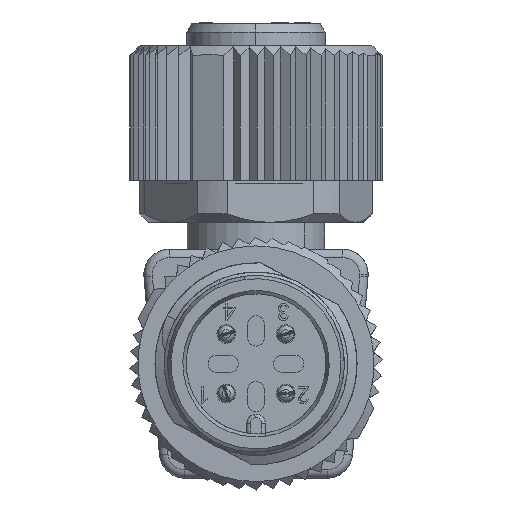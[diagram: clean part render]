
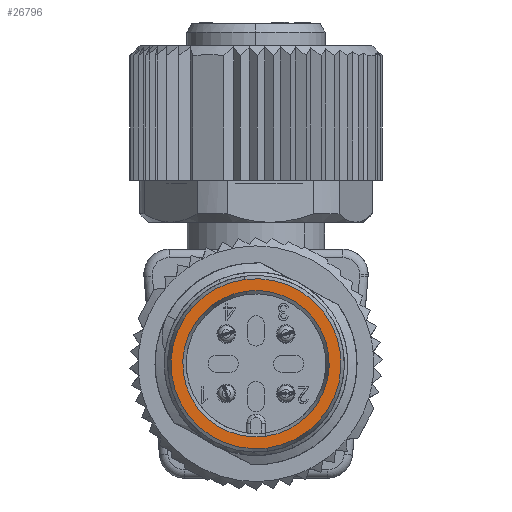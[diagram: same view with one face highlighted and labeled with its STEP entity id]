
A CAD part, left-side view. The second image highlights one B-rep face of the part: STEP entity #26796.
In plain terms, the highlighted planar face has unit normal (-1, 0, 0).
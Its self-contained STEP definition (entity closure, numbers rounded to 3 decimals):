
#1287 = CIRCLE ( 'NONE', #51316, 5.05 ) ;
#7569 = AXIS2_PLACEMENT_3D ( 'NONE', #46265, #33351, #70119 ) ;
#9285 = FACE_OUTER_BOUND ( 'NONE', #50272, .T. ) ;
#9570 = VERTEX_POINT ( 'NONE', #70511 ) ;
#11914 = ORIENTED_EDGE ( 'NONE', *, *, #16942, .F. ) ;
#12430 = CARTESIAN_POINT ( 'NONE',  ( -194.672, 0., -0.256 ) ) ;
#14388 = ORIENTED_EDGE ( 'NONE', *, *, #45890, .T. ) ;
#16511 = EDGE_CURVE ( 'NONE', #9570, #19420, #1287, .T. ) ;
#16942 = EDGE_CURVE ( 'NONE', #19420, #9570, #52572, .T. ) ;
#17874 = ORIENTED_EDGE ( 'NONE', *, *, #16511, .F. ) ;
#19420 = VERTEX_POINT ( 'NONE', #43807 ) ;
#22522 = CIRCLE ( 'NONE', #7569, 4.35 ) ;
#26245 = EDGE_CURVE ( 'NONE', #38109, #59125, #22522, .T. ) ;
#26796 = ADVANCED_FACE ( 'NONE', ( #9285, #76157 ), #63662, .T. ) ;
#29284 = CARTESIAN_POINT ( 'NONE',  ( -194.672, -0.568, -4.568 ) ) ;
#32594 = AXIS2_PLACEMENT_3D ( 'NONE', #12430, #60555, #37089 ) ;
#33162 = CARTESIAN_POINT ( 'NONE',  ( -194.672, -3.324, 3.068 ) ) ;
#33351 = DIRECTION ( 'NONE',  ( 1., 0., 0. ) ) ;
#33804 = DIRECTION ( 'NONE',  ( 1., 0., 0. ) ) ;
#34948 = DIRECTION ( 'NONE',  ( 0., 0.13, 0.991 ) ) ;
#37089 = DIRECTION ( 'NONE',  ( 0., -0.13, -0.991 ) ) ;
#37584 = CARTESIAN_POINT ( 'NONE',  ( -194.672, 0.568, 4.057 ) ) ;
#38109 = VERTEX_POINT ( 'NONE', #37584 ) ;
#39277 = ORIENTED_EDGE ( 'NONE', *, *, #26245, .T. ) ;
#40436 = CARTESIAN_POINT ( 'NONE',  ( -194.672, 0., -0.256 ) ) ;
#43807 = CARTESIAN_POINT ( 'NONE',  ( -194.672, 0.659, 4.751 ) ) ;
#45890 = EDGE_CURVE ( 'NONE', #59125, #38109, #54184, .T. ) ;
#46265 = CARTESIAN_POINT ( 'NONE',  ( -194.672, 0., -0.256 ) ) ;
#47153 = DIRECTION ( 'NONE',  ( 1., 0., 0. ) ) ;
#50272 = EDGE_LOOP ( 'NONE', ( #17874, #11914 ) ) ;
#51316 = AXIS2_PLACEMENT_3D ( 'NONE', #65524, #47153, #70994 ) ;
#51554 = DIRECTION ( 'NONE',  ( -1., 0., 0. ) ) ;
#52572 = CIRCLE ( 'NONE', #32594, 5.05 ) ;
#54184 = CIRCLE ( 'NONE', #77421, 4.35 ) ;
#59125 = VERTEX_POINT ( 'NONE', #29284 ) ;
#60555 = DIRECTION ( 'NONE',  ( 1., 0., 0. ) ) ;
#62319 = EDGE_LOOP ( 'NONE', ( #39277, #14388 ) ) ;
#63662 = PLANE ( 'NONE',  #71352 ) ;
#65524 = CARTESIAN_POINT ( 'NONE',  ( -194.672, 0., -0.256 ) ) ;
#69930 = DIRECTION ( 'NONE',  ( 0., -1., 0. ) ) ;
#70119 = DIRECTION ( 'NONE',  ( 0., 0.13, 0.991 ) ) ;
#70511 = CARTESIAN_POINT ( 'NONE',  ( -194.672, -0.659, -5.262 ) ) ;
#70994 = DIRECTION ( 'NONE',  ( 0., -0.13, -0.991 ) ) ;
#71352 = AXIS2_PLACEMENT_3D ( 'NONE', #33162, #51554, #69930 ) ;
#76157 = FACE_BOUND ( 'NONE', #62319, .T. ) ;
#77421 = AXIS2_PLACEMENT_3D ( 'NONE', #40436, #33804, #34948 ) ;
